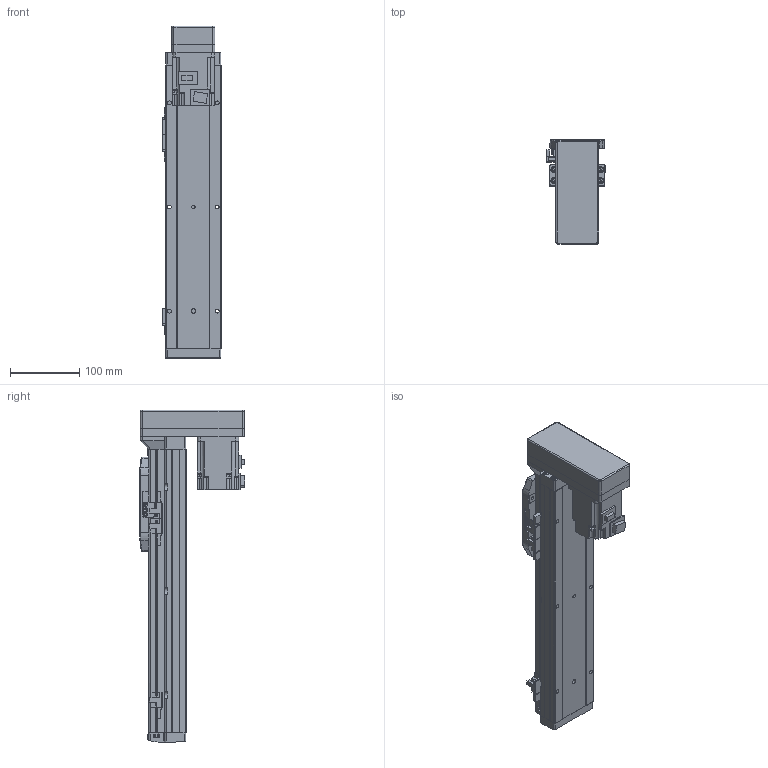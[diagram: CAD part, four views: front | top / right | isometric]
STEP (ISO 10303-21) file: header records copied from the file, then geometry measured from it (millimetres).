
FILE_DESCRIPTION (( 'STEP AP214' ), '1' );
FILE_NAME ('GSH8-250-BM-M20-1.step', '2025-01-07T06:07:56', ( '' ), ( '' ), 'SwSTEP 2.0', 'SolidWorks 2012', '' );
FILE_SCHEMA (( 'AUTOMOTIVE_DESIGN' ));
Length unit declared in the file: millimetre
Products named in the file (5): GSH8-BL-008; GSH8-BL-011-250-M20; GSH8-GY-004; HG-KR23_200W_Motor; GSH8-250-BM-M20-1
Assembly tree (4 placements, depth 2):
  GSH8-250-BM-M20-1
    GSH8-BL-011-250-M20
    GSH8-GY-004
    GSH8-BL-008
    HG-KR23_200W_Motor
Bounding box: 84 x 152.3 x 478.2 mm (x, y, z)
Volume: 1550822 mm3; surface area: 344614.7 mm2
Topology: 4 solids, 8 shells, 1088 faces, 2837 edges, 1822 vertices
Faces by surface type: plane 624, cylinder 368, torus 42, cone 26, bspline 24, sphere 4
Entity records: 42739 total; most frequent: CARTESIAN_POINT 9696, DIRECTION 5753, ORIENTED_EDGE 5658, EDGE_CURVE 2829, AXIS2_PLACEMENT_3D 1931, LINE 1891, VECTOR 1891, VERTEX_POINT 1818
